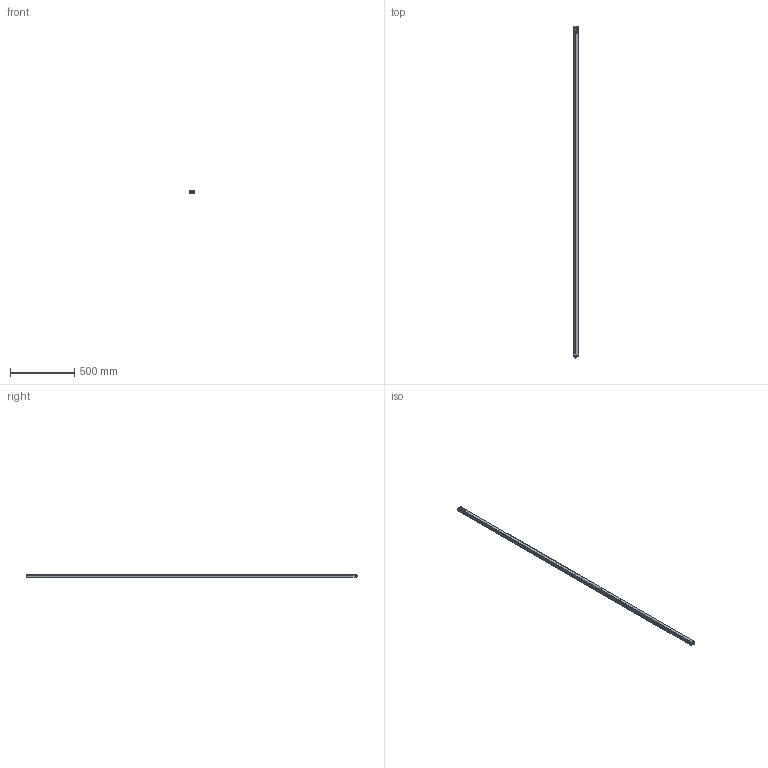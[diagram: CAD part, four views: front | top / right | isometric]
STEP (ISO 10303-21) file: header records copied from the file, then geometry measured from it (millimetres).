
FILE_DESCRIPTION(/* description */ (''),/* implementation_level */ '2;1');
FILE_NAME(/* name */ 'C:\Users\andre\SynologyDrive\Optoscan\Libreria Componenti\00 - Barriere\Barriera sorgente\Argo_2560_TX.stp',/* time_stamp */ '2021-04-22T10:33:35+02:00',/* author */ ('andre'),/* organization */ (''),/* preprocessor_version */ 'ST-DEVELOPER v18',/* originating_system */ 'Autodesk Inventor 2020',/* authorisation */ '');
FILE_SCHEMA (('AUTOMOTIVE_DESIGN { 1 0 10303 214 3 1 1 }'));
Length unit declared in the file: millimetre
Products named in the file (1): Argo_2560_TX
Bounding box: 40.5 x 2593.3 x 20.75 mm (x, y, z)
Volume: 509679.5 mm3; surface area: 672944 mm2
Topology: 1 solids, 1 shells, 696 faces, 1911 edges, 1225 vertices
Faces by surface type: plane 321, cylinder 195, bspline 94, torus 72, cone 8, sphere 6
Full cylindrical faces by diameter (mm): 1 x4, 2.459 x4, 2.5 x4, 3 x4, 3.5 x4, 5.5 x4, 8 x1, 10.5 x2, 11.75 x9, 15.7 x1, 17.5 x1
Entity records: 30770 total; most frequent: CARTESIAN_POINT 12670, ORIENTED_EDGE 3806, DIRECTION 3415, EDGE_CURVE 1903, VERTEX_POINT 1225, AXIS2_PLACEMENT_3D 1193, LINE 1029, VECTOR 1029
